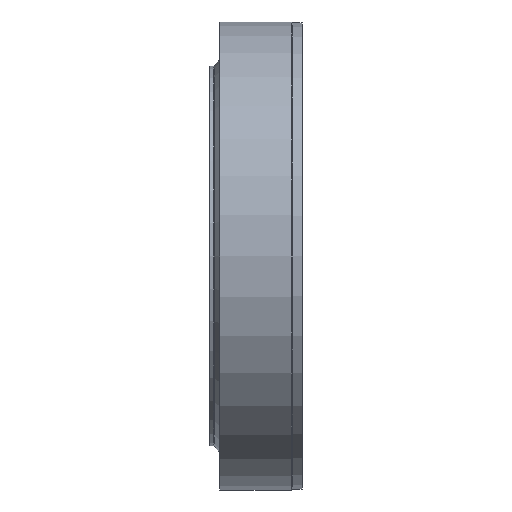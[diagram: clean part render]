
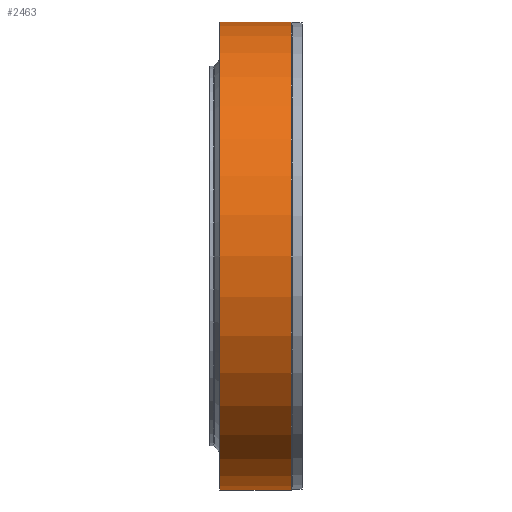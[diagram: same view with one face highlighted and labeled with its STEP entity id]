
A CAD part, left-side view. The second image highlights one B-rep face of the part: STEP entity #2463.
In plain terms, the highlighted cylindrical face has radius 236 mm (diameter 472 mm), a partial arc.
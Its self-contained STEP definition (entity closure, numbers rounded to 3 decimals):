
#184 = CARTESIAN_POINT ( 'NONE',  ( 0., -117.951, 0. ) ) ;
#244 = CARTESIAN_POINT ( 'NONE',  ( 0., -45.951, -236. ) ) ;
#433 = VERTEX_POINT ( 'NONE', #2890 ) ;
#801 = ORIENTED_EDGE ( 'NONE', *, *, #4582, .T. ) ;
#842 = DIRECTION ( 'NONE',  ( 0., 0., -1. ) ) ;
#905 = DIRECTION ( 'NONE',  ( 0., -1., 0. ) ) ;
#1013 = AXIS2_PLACEMENT_3D ( 'NONE', #184, #5885, #2117 ) ;
#1172 = CARTESIAN_POINT ( 'NONE',  ( 0., 0., 236. ) ) ;
#1255 = VECTOR ( 'NONE', #2050, 1000. ) ;
#1350 = CARTESIAN_POINT ( 'NONE',  ( 0., 0., 0. ) ) ;
#1536 = EDGE_CURVE ( 'NONE', #3142, #433, #4748, .T. ) ;
#1763 = CARTESIAN_POINT ( 'NONE',  ( 0., -45.951, 0. ) ) ;
#1845 = VERTEX_POINT ( 'NONE', #2420 ) ;
#1968 = EDGE_LOOP ( 'NONE', ( #5426, #2749, #801, #2221 ) ) ;
#2050 = DIRECTION ( 'NONE',  ( 0., -1., 0. ) ) ;
#2117 = DIRECTION ( 'NONE',  ( 0., 0., -1. ) ) ;
#2221 = ORIENTED_EDGE ( 'NONE', *, *, #1536, .F. ) ;
#2253 = EDGE_CURVE ( 'NONE', #1845, #3142, #5479, .T. ) ;
#2420 = CARTESIAN_POINT ( 'NONE',  ( 0., -45.951, 236. ) ) ;
#2463 = ADVANCED_FACE ( 'NONE', ( #2795 ), #5147, .T. ) ;
#2598 = VECTOR ( 'NONE', #905, 1000. ) ;
#2749 = ORIENTED_EDGE ( 'NONE', *, *, #4136, .T. ) ;
#2795 = FACE_OUTER_BOUND ( 'NONE', #1968, .T. ) ;
#2852 = CARTESIAN_POINT ( 'NONE',  ( 0., 0., -236. ) ) ;
#2890 = CARTESIAN_POINT ( 'NONE',  ( 0., -117.951, -236. ) ) ;
#3142 = VERTEX_POINT ( 'NONE', #4479 ) ;
#3316 = AXIS2_PLACEMENT_3D ( 'NONE', #1763, #3695, #5630 ) ;
#3695 = DIRECTION ( 'NONE',  ( 0., -1., 0. ) ) ;
#3991 = AXIS2_PLACEMENT_3D ( 'NONE', #1350, #5181, #842 ) ;
#4136 = EDGE_CURVE ( 'NONE', #1845, #4508, #4844, .T. ) ;
#4261 = LINE ( 'NONE', #2852, #2598 ) ;
#4479 = CARTESIAN_POINT ( 'NONE',  ( 0., -117.951, 236. ) ) ;
#4508 = VERTEX_POINT ( 'NONE', #244 ) ;
#4582 = EDGE_CURVE ( 'NONE', #4508, #433, #4261, .T. ) ;
#4748 = CIRCLE ( 'NONE', #1013, 236. ) ;
#4844 = CIRCLE ( 'NONE', #3316, 236. ) ;
#5147 = CYLINDRICAL_SURFACE ( 'NONE', #3991, 236. ) ;
#5181 = DIRECTION ( 'NONE',  ( 0., -1., 0. ) ) ;
#5426 = ORIENTED_EDGE ( 'NONE', *, *, #2253, .F. ) ;
#5479 = LINE ( 'NONE', #1172, #1255 ) ;
#5630 = DIRECTION ( 'NONE',  ( 0., 0., -1. ) ) ;
#5885 = DIRECTION ( 'NONE',  ( 0., -1., 0. ) ) ;
